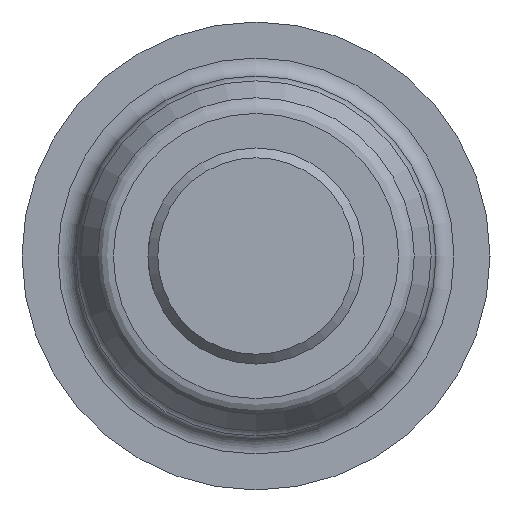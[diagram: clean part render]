
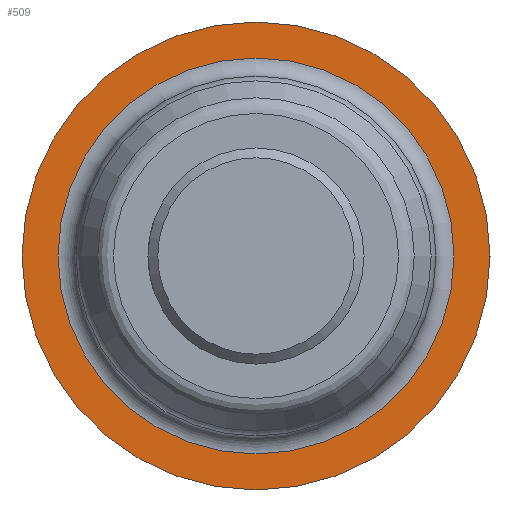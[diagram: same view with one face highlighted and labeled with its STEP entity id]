
A CAD part, left-side view. The second image highlights one B-rep face of the part: STEP entity #509.
In plain terms, the highlighted planar face has unit normal (-1, 0, 0).
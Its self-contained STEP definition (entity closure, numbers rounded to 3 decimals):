
#24=FACE_BOUND('',#113,.T.);
#53=PLANE('',#588);
#78=FACE_OUTER_BOUND('',#112,.T.);
#112=EDGE_LOOP('',(#445));
#113=EDGE_LOOP('',(#446));
#198=CIRCLE('',#587,11.);
#199=CIRCLE('',#589,13.);
#251=VERTEX_POINT('',#966);
#252=VERTEX_POINT('',#970);
#318=EDGE_CURVE('',#251,#251,#198,.T.);
#319=EDGE_CURVE('',#252,#252,#199,.T.);
#445=ORIENTED_EDGE('',*,*,#319,.F.);
#446=ORIENTED_EDGE('',*,*,#318,.T.);
#509=ADVANCED_FACE('',(#78,#24),#53,.T.);
#587=AXIS2_PLACEMENT_3D('',#968,#728,#729);
#588=AXIS2_PLACEMENT_3D('',#969,#730,#731);
#589=AXIS2_PLACEMENT_3D('',#971,#732,#733);
#728=DIRECTION('center_axis',(1.,0.,0.));
#729=DIRECTION('ref_axis',(0.,0.,-1.));
#730=DIRECTION('center_axis',(-1.,0.,0.));
#731=DIRECTION('ref_axis',(0.,0.,1.));
#732=DIRECTION('center_axis',(1.,0.,0.));
#733=DIRECTION('ref_axis',(0.,0.,-1.));
#966=CARTESIAN_POINT('',(-17.,0.,11.));
#968=CARTESIAN_POINT('Origin',(-17.,0.,0.));
#969=CARTESIAN_POINT('Origin',(-17.,13.,0.));
#970=CARTESIAN_POINT('',(-17.,-13.,0.));
#971=CARTESIAN_POINT('Origin',(-17.,0.,0.));
